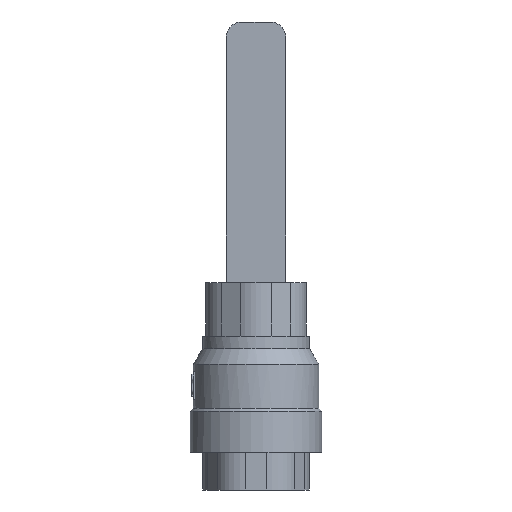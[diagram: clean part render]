
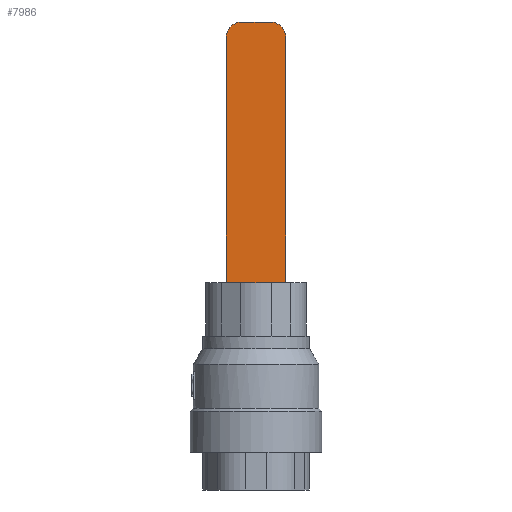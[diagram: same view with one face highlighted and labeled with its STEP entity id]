
A CAD part, left-side view. The second image highlights one B-rep face of the part: STEP entity #7986.
In plain terms, the highlighted planar face has unit normal (-1, 0, 0).
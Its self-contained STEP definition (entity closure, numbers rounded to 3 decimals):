
#7986=ADVANCED_FACE('',(#14573),#14575,.T.);
#14573=FACE_BOUND('',#14574,.T.);
#14574=EDGE_LOOP('',(#20041,#20042,#20043,#20044,#20045,#20046));
#14575=PLANE('',#14576);
#14576=AXIS2_PLACEMENT_3D('',#14577,#14578,#14579);
#14577=CARTESIAN_POINT('',(3790.077,1847.25,3383.832));
#14578=DIRECTION('',(-1.,0.,0.));
#14579=DIRECTION('',(0.,0.,1.));
#20041=ORIENTED_EDGE('',*,*,#22833,.F.);
#20042=ORIENTED_EDGE('',*,*,#22839,.T.);
#20043=ORIENTED_EDGE('',*,*,#22845,.F.);
#20044=ORIENTED_EDGE('',*,*,#22849,.F.);
#20045=ORIENTED_EDGE('',*,*,#22864,.F.);
#20046=ORIENTED_EDGE('',*,*,#22865,.F.);
#22833=EDGE_CURVE('',#27221,#27222,#27223,.T.);
#22839=EDGE_CURVE('',#27221,#27231,#27233,.T.);
#22845=EDGE_CURVE('',#27241,#27231,#27243,.T.);
#22849=EDGE_CURVE('',#27246,#27241,#27248,.T.);
#22864=EDGE_CURVE('',#27269,#27246,#27270,.T.);
#22865=EDGE_CURVE('',#27222,#27269,#27271,.T.);
#27221=VERTEX_POINT('',#37127);
#27222=VERTEX_POINT('',#37128);
#27223=CIRCLE('',#37129,5.);
#27231=VERTEX_POINT('',#37149);
#27233=LINE('',#37153,#37154);
#27241=VERTEX_POINT('',#37172);
#27243=CIRCLE('',#37176,5.);
#27246=VERTEX_POINT('',#37186);
#27248=LINE('',#37190,#37191);
#27269=VERTEX_POINT('',#37243);
#27270=LINE('',#37244,#37245);
#27271=LINE('',#37247,#37248);
#37127=CARTESIAN_POINT('',(3790.077,1852.25,3467.589));
#37128=CARTESIAN_POINT('',(3790.077,1847.25,3462.589));
#37129=AXIS2_PLACEMENT_3D('',#37130,#37131,#37132);
#37130=CARTESIAN_POINT('',(3790.077,1852.25,3462.589));
#37131=DIRECTION('',(1.,0.,0.));
#37132=DIRECTION('',(0.,0.,1.));
#37149=CARTESIAN_POINT('',(3790.077,1861.25,3467.589));
#37153=CARTESIAN_POINT('',(3790.077,1852.25,3467.589));
#37154=VECTOR('',#37155,1.);
#37155=DIRECTION('',(0.,1.,0.));
#37172=CARTESIAN_POINT('',(3790.077,1866.25,3462.589));
#37176=AXIS2_PLACEMENT_3D('',#37177,#37178,#37179);
#37177=CARTESIAN_POINT('',(3790.077,1861.25,3462.589));
#37178=DIRECTION('',(1.,0.,0.));
#37179=DIRECTION('',(0.,1.,0.));
#37186=CARTESIAN_POINT('',(3790.077,1866.25,3383.832));
#37190=CARTESIAN_POINT('',(3790.077,1866.25,3383.832));
#37191=VECTOR('',#37192,1.);
#37192=DIRECTION('',(0.,0.,1.));
#37243=CARTESIAN_POINT('',(3790.077,1847.25,3383.832));
#37244=CARTESIAN_POINT('',(3790.077,1847.25,3383.832));
#37245=VECTOR('',#37246,1.);
#37246=DIRECTION('',(0.,1.,0.));
#37247=CARTESIAN_POINT('',(3790.077,1847.25,3462.589));
#37248=VECTOR('',#37249,1.);
#37249=DIRECTION('',(0.,0.,-1.));
